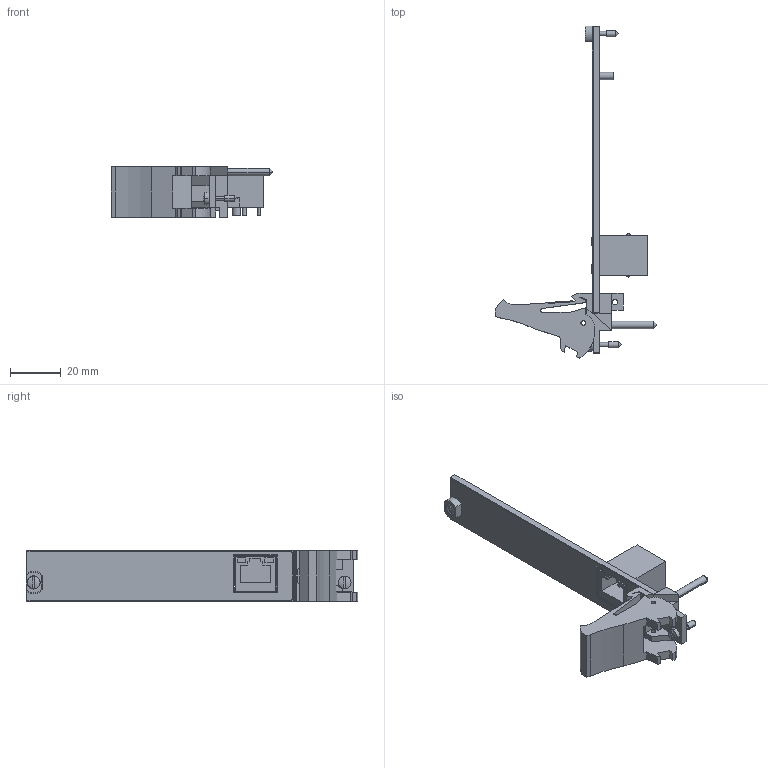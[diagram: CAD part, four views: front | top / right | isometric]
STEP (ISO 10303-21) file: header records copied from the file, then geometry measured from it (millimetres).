
FILE_DESCRIPTION((''),'2;1');
FILE_NAME('CU_PXI-8231','2012-04-12T',('talbott'),(''),'PRO/ENGINEER BY PARAMETRIC TECHNOLOGY CORPORATION, 2010230','PRO/ENGINEER BY PARAMETRIC TECHNOLOGY CORPORATION, 2010230','');
FILE_SCHEMA(('CONFIG_CONTROL_DESIGN'));
Length unit declared in the file: inch
Products named in the file (1): CU_PXI-8231
Bounding box: 63.53 x 130.62 x 20.02 mm (x, y, z)
Volume: 18000.6 mm3; surface area: 13601.3 mm2
Topology: 2 solids, 2 shells, 256 faces, 686 edges, 449 vertices
Faces by surface type: plane 179, cylinder 67, cone 6, sphere 4
Entity records: 8000 total; most frequent: CARTESIAN_POINT 1391, ORIENTED_EDGE 1364, DIRECTION 1347, EDGE_CURVE 682, VECTOR 527, LINE 527, VERTEX_POINT 449, AXIS2_PLACEMENT_3D 410
